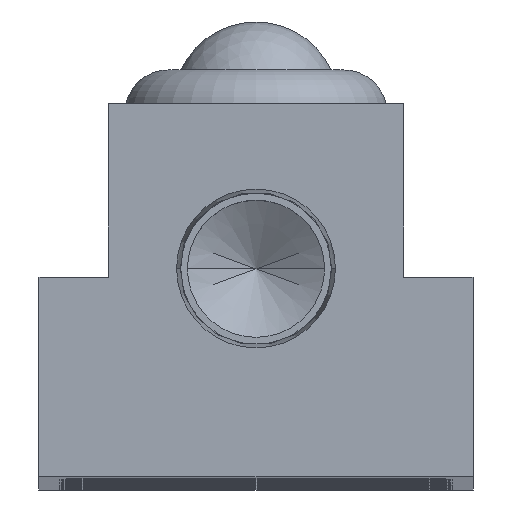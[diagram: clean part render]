
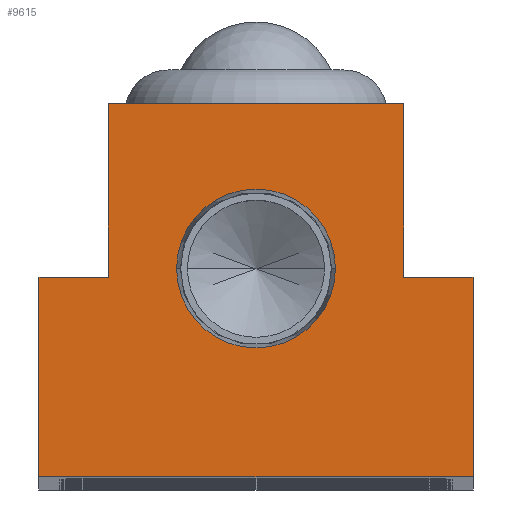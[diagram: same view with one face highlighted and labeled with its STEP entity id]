
A CAD part, top view. The second image highlights one B-rep face of the part: STEP entity #9615.
In plain terms, the highlighted planar face has unit normal (0, 0, 1).
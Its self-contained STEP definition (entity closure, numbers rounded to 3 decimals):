
#262 = ORIENTED_EDGE ( 'NONE', *, *, #7742, .T. ) ;
#401 = VERTEX_POINT ( 'NONE', #676 ) ;
#582 = LINE ( 'NONE', #6742, #6240 ) ;
#660 = ORIENTED_EDGE ( 'NONE', *, *, #2336, .T. ) ;
#676 = CARTESIAN_POINT ( 'NONE',  ( -8.5, 21.5, 0. ) ) ;
#727 = VERTEX_POINT ( 'NONE', #5328 ) ;
#732 = ORIENTED_EDGE ( 'NONE', *, *, #8170, .T. ) ;
#925 = VERTEX_POINT ( 'NONE', #9041 ) ;
#1293 = ORIENTED_EDGE ( 'NONE', *, *, #4661, .T. ) ;
#1403 = CARTESIAN_POINT ( 'NONE',  ( 12.5, 11.5, 0. ) ) ;
#1788 = ORIENTED_EDGE ( 'NONE', *, *, #6682, .F. ) ;
#1856 = DIRECTION ( 'NONE',  ( 0., -1., 0. ) ) ;
#2122 = DIRECTION ( 'NONE',  ( 0., 0., 1. ) ) ;
#2336 = EDGE_CURVE ( 'NONE', #7771, #6927, #582, .T. ) ;
#2621 = CIRCLE ( 'NONE', #12801, 4.574 ) ;
#2759 = LINE ( 'NONE', #4506, #8775 ) ;
#2833 = VERTEX_POINT ( 'NONE', #5629 ) ;
#3191 = PLANE ( 'NONE',  #10650 ) ;
#3226 = CARTESIAN_POINT ( 'NONE',  ( 0., 12., 0. ) ) ;
#3493 = AXIS2_PLACEMENT_3D ( 'NONE', #3226, #11101, #4372 ) ;
#3500 = VECTOR ( 'NONE', #11115, 1000. ) ;
#3596 = ORIENTED_EDGE ( 'NONE', *, *, #3647, .T. ) ;
#3647 = EDGE_CURVE ( 'NONE', #2833, #5136, #2759, .T. ) ;
#3853 = CIRCLE ( 'NONE', #3493, 4.574 ) ;
#3971 = LINE ( 'NONE', #6533, #13639 ) ;
#4372 = DIRECTION ( 'NONE',  ( 1., 0., 0. ) ) ;
#4386 = DIRECTION ( 'NONE',  ( 1., 0., 0. ) ) ;
#4402 = LINE ( 'NONE', #9724, #7416 ) ;
#4493 = ORIENTED_EDGE ( 'NONE', *, *, #6426, .T. ) ;
#4506 = CARTESIAN_POINT ( 'NONE',  ( 8.5, 11.5, 0. ) ) ;
#4661 = EDGE_CURVE ( 'NONE', #10282, #7771, #11033, .T. ) ;
#4956 = CARTESIAN_POINT ( 'NONE',  ( 12.5, 11.5, 0. ) ) ;
#5093 = FACE_BOUND ( 'NONE', #5149, .T. ) ;
#5136 = VERTEX_POINT ( 'NONE', #8790 ) ;
#5149 = EDGE_LOOP ( 'NONE', ( #8514, #1788 ) ) ;
#5328 = CARTESIAN_POINT ( 'NONE',  ( -4.574, 12., 0. ) ) ;
#5369 = EDGE_LOOP ( 'NONE', ( #7115, #4493, #3596, #262, #732, #1293, #660, #11068 ) ) ;
#5510 = CARTESIAN_POINT ( 'NONE',  ( 8.5, 21.5, 0. ) ) ;
#5629 = CARTESIAN_POINT ( 'NONE',  ( 8.5, 11.5, 0. ) ) ;
#5829 = LINE ( 'NONE', #4956, #11106 ) ;
#6240 = VECTOR ( 'NONE', #7869, 1000. ) ;
#6426 = EDGE_CURVE ( 'NONE', #9830, #2833, #5829, .T. ) ;
#6533 = CARTESIAN_POINT ( 'NONE',  ( -12.5, 0., 0. ) ) ;
#6682 = EDGE_CURVE ( 'NONE', #727, #925, #2621, .T. ) ;
#6742 = CARTESIAN_POINT ( 'NONE',  ( -12.5, 11.5, 0. ) ) ;
#6870 = LINE ( 'NONE', #5510, #3500 ) ;
#6927 = VERTEX_POINT ( 'NONE', #10506 ) ;
#7115 = ORIENTED_EDGE ( 'NONE', *, *, #10919, .T. ) ;
#7416 = VECTOR ( 'NONE', #1856, 1000. ) ;
#7742 = EDGE_CURVE ( 'NONE', #5136, #401, #6870, .T. ) ;
#7771 = VERTEX_POINT ( 'NONE', #11160 ) ;
#7869 = DIRECTION ( 'NONE',  ( 0., -1., 0. ) ) ;
#7951 = CARTESIAN_POINT ( 'NONE',  ( -8.5, 11.5, 0. ) ) ;
#8080 = FACE_OUTER_BOUND ( 'NONE', #5369, .T. ) ;
#8170 = EDGE_CURVE ( 'NONE', #401, #10282, #4402, .T. ) ;
#8225 = LINE ( 'NONE', #13749, #10150 ) ;
#8491 = EDGE_CURVE ( 'NONE', #925, #727, #3853, .T. ) ;
#8514 = ORIENTED_EDGE ( 'NONE', *, *, #8491, .F. ) ;
#8775 = VECTOR ( 'NONE', #12364, 1000. ) ;
#8790 = CARTESIAN_POINT ( 'NONE',  ( 8.5, 21.5, 0. ) ) ;
#8845 = CARTESIAN_POINT ( 'NONE',  ( 0., 0., 0. ) ) ;
#8875 = CARTESIAN_POINT ( 'NONE',  ( 0., 12., 0. ) ) ;
#9041 = CARTESIAN_POINT ( 'NONE',  ( 4.574, 12., 0. ) ) ;
#9615 = ADVANCED_FACE ( 'NONE', ( #5093, #8080 ), #3191, .T. ) ;
#9724 = CARTESIAN_POINT ( 'NONE',  ( -8.5, 21.5, 0. ) ) ;
#9830 = VERTEX_POINT ( 'NONE', #1403 ) ;
#10013 = DIRECTION ( 'NONE',  ( 1., 0., 0. ) ) ;
#10150 = VECTOR ( 'NONE', #12629, 1000. ) ;
#10282 = VERTEX_POINT ( 'NONE', #7951 ) ;
#10506 = CARTESIAN_POINT ( 'NONE',  ( -12.5, 0., 0. ) ) ;
#10650 = AXIS2_PLACEMENT_3D ( 'NONE', #8845, #11113, #4386 ) ;
#10919 = EDGE_CURVE ( 'NONE', #12539, #9830, #8225, .T. ) ;
#11033 = LINE ( 'NONE', #12337, #14373 ) ;
#11068 = ORIENTED_EDGE ( 'NONE', *, *, #11698, .T. ) ;
#11101 = DIRECTION ( 'NONE',  ( 0., 0., 1. ) ) ;
#11106 = VECTOR ( 'NONE', #13940, 1000. ) ;
#11113 = DIRECTION ( 'NONE',  ( 0., 0., 1. ) ) ;
#11115 = DIRECTION ( 'NONE',  ( -1., 0., 0. ) ) ;
#11160 = CARTESIAN_POINT ( 'NONE',  ( -12.5, 11.5, 0. ) ) ;
#11698 = EDGE_CURVE ( 'NONE', #6927, #12539, #3971, .T. ) ;
#12337 = CARTESIAN_POINT ( 'NONE',  ( -8.5, 11.5, 0. ) ) ;
#12364 = DIRECTION ( 'NONE',  ( 0., 1., 0. ) ) ;
#12539 = VERTEX_POINT ( 'NONE', #13662 ) ;
#12629 = DIRECTION ( 'NONE',  ( 0., 1., 0. ) ) ;
#12801 = AXIS2_PLACEMENT_3D ( 'NONE', #8875, #2122, #10013 ) ;
#13248 = DIRECTION ( 'NONE',  ( 1., 0., 0. ) ) ;
#13639 = VECTOR ( 'NONE', #13248, 1000. ) ;
#13662 = CARTESIAN_POINT ( 'NONE',  ( 12.5, 0., 0. ) ) ;
#13749 = CARTESIAN_POINT ( 'NONE',  ( 12.5, 0., 0. ) ) ;
#13940 = DIRECTION ( 'NONE',  ( -1., 0., 0. ) ) ;
#14373 = VECTOR ( 'NONE', #14597, 1000. ) ;
#14597 = DIRECTION ( 'NONE',  ( -1., 0., 0. ) ) ;
